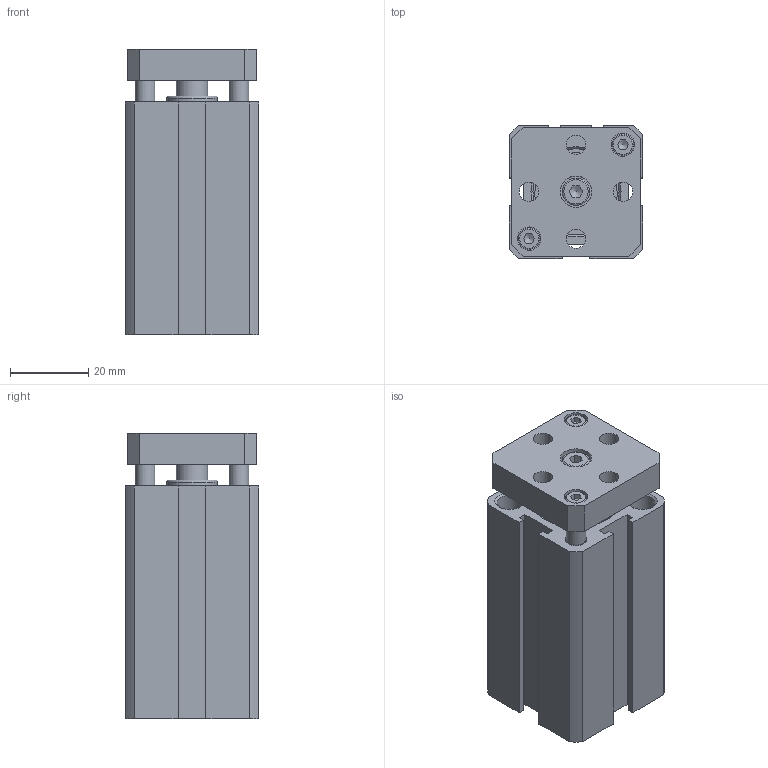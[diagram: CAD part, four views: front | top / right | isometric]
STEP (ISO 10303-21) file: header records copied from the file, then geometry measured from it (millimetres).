
FILE_DESCRIPTION((''),'2;1');
FILE_NAME('I:\3D電子目錄\氣缸\JTD\JTD\JTD20\JTD20x40.stp','2007-08-09T19:39:06',('Administrator'),(''),'Autodesk Inventor 11','Autodesk Inventor 11','');
FILE_SCHEMA(('AUTOMOTIVE_DESIGN { 1 0 10303 214 1 1 1 1 }'));
Length unit declared in the file: millimetre
Products named in the file (5): JTD20; R 形環 23; ISO 4762 M4 x 10; ISO 4762 M3 x 8
Assembly tree (6 placements, depth 2):
  JTD20
    JTD20
    R 形環 23  x2
    ISO 4762 M4 x 10
    ISO 4762 M3 x 8  x2
Bounding box: 34 x 34 x 73 mm (x, y, z)
Volume: 62580.4 mm3; surface area: 23467.7 mm2
Topology: 6 solids, 6 shells, 185 faces, 420 edges, 275 vertices
Faces by surface type: plane 99, cylinder 51, bspline 16, cone 14, torus 5
Full cylindrical faces by diameter (mm): 1.5 x6, 3 x2, 4 x1, 4.3 x2, 4.576 x2, 5 x2, 5.5 x4, 6.5 x4, 7 x1, 8 x1, 13 x2, 22 x4, 23.2 x2
Entity records: 4480 total; most frequent: CARTESIAN_POINT 974, DIRECTION 708, ORIENTED_EDGE 592, EDGE_CURVE 296, AXIS2_PLACEMENT_3D 270, EDGE_LOOP 262, VERTEX_POINT 228, VECTOR 168
